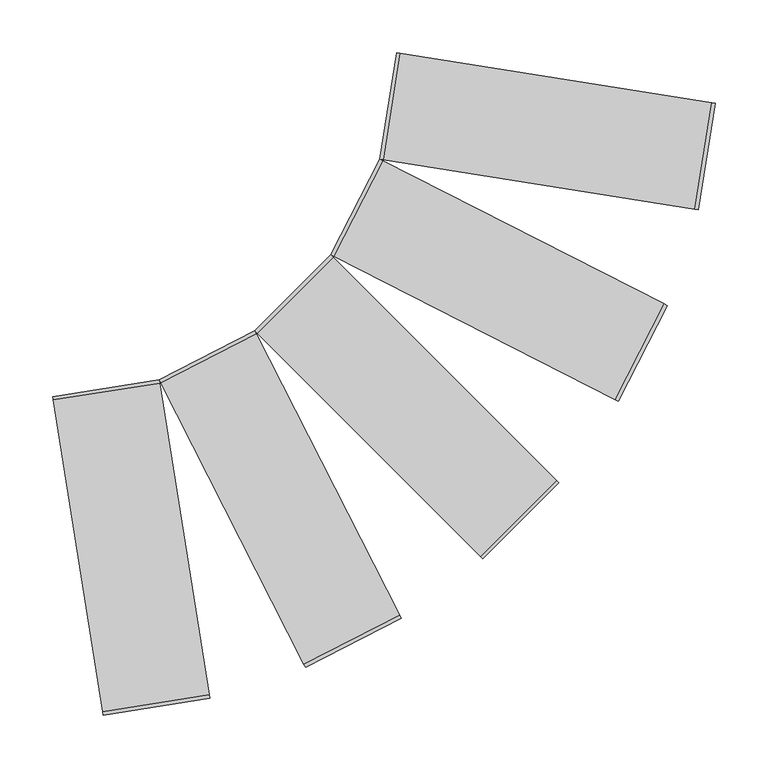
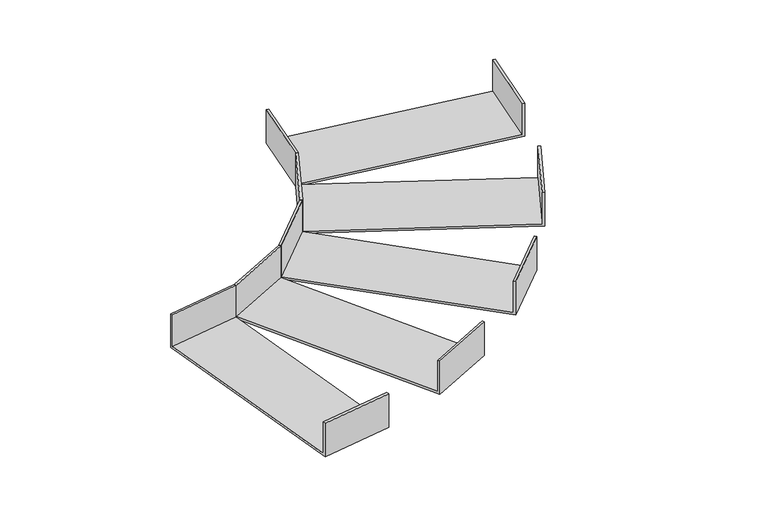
"""IFC4 building model written with IfcOpenShell, lengths in millimetres: cable carrier fitting geometry, Bend-Horizontal-Cablofil-Wire_Mesh_Cable_Tray : Faslock."""

from ifc_helpers import new_model, si_unit, frame, origin, place, context, project, spatial, polyline, outline, extrude, source, transform, mapped, element, save


def cable_carrier_fitting_56b4656a(model_context):
    return source(origin(), model_context, "Body", "SweptSolid", [
        extrude(outline(polyline([(-50.8, 0.0), (0.0, 0.0), (0.0, -304.7999999), (-50.8, -304.7999999), (-50.8, -301.6249999), (-3.175, -301.6249999), (-3.175, -3.175), (-50.8, -3.175), (-50.8, 0.0)])), frame((-376.7874882, 168.2937416, -25.4), z_axis=(0.8910065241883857, 0.453990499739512, 0.0), x_axis=(0.0, 0.0, -1.0)), (0.0, 0.0, 1.0), 101.6),
        extrude(outline(polyline([(-50.8, 0.0), (0.0, 0.0), (0.0, -304.8), (-50.8, -304.8), (-50.8, -301.625), (-3.175, -301.625), (-3.175, -3.175), (-50.8, -3.175), (-50.8, 0.0)])), frame((-286.2612254, 214.4191764, -25.4), z_axis=(0.7071067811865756, 0.7071067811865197, 0.0), x_axis=(0.0, 0.0, -1.0)), (0.0, 0.0, 1.0), 101.6),
        extrude(outline(polyline([(-50.8, 0.0), (0.0, 0.0), (0.0, -304.8), (-50.8, -304.8), (-50.8, -301.625), (-3.175, -301.625), (-3.175, -3.175), (-50.8, -3.175), (-50.8, 0.0)])), frame((-214.4191764, 286.2612254, -25.4), z_axis=(0.453990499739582, 0.89100652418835, 0.0), x_axis=(0.0, 0.0, -1.0)), (0.0, 0.0, 1.0), 101.6),
        extrude(outline(polyline([(-50.8, 0.0), (0.0, 0.0), (0.0, -304.8), (-50.8, -304.8), (-50.8, -301.625), (-3.175, -301.625), (-3.175, -3.175), (-50.8, -3.175), (-50.8, 0.0)])), frame((-477.1366237, 152.4, -25.4), z_axis=(0.987688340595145, 0.15643446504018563, 0.0), x_axis=(0.0, 0.0, -1.0)), (0.0, 0.0, 1.0), 101.6),
        extrude(outline(polyline([(-50.8, 0.0), (0.0, 0.0), (0.0, -304.8), (-50.8, -304.8), (-50.8, -301.625), (-3.175, -301.625), (-3.175, -3.1749999), (-50.8, -3.1749999), (-50.8, 0.0)])), frame((-168.2937416, 376.7874882, -25.4), z_axis=(0.15643446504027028, 0.9876883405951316, 0.0), x_axis=(0.0, 0.0, -1.0)), (0.0, 0.0, 1.0), 101.6),
    ])


if __name__ == "__main__":
    model = new_model("IFC4")
    model_context = context("Model", 3, world=origin())
    ifc_project = project(units=[si_unit("LENGTHUNIT", "METRE", prefix="MILLI")], contexts=[model_context])
    site = spatial("IfcSite", under=ifc_project)
    building = spatial("IfcBuilding", under=site)
    placement = place(None, origin())
    cable_carrier_fitting_shape = cable_carrier_fitting_56b4656a(model_context)
    element("IfcCableCarrierFitting", 1, ObjectType="Bend-Horizontal-Cablofil-Wire_Mesh_Cable_Tray : Faslock", at=placement, inside=building, context=model_context, shape_type="MappedRepresentation", body=[
        mapped(cable_carrier_fitting_shape, transform((0.0, 0.0, 0.0), x_axis=(1.0, 0.0, 0.0), y_axis=(0.0, 1.0, 0.0), z_axis=(0.0, 0.0, 1.0))),
    ])
    save(model, "model.ifc")
